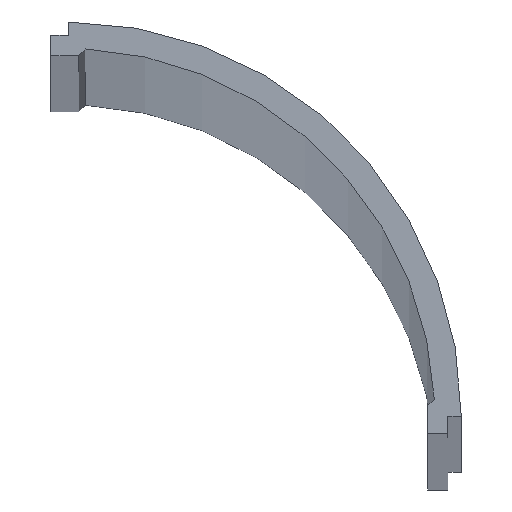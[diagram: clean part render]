
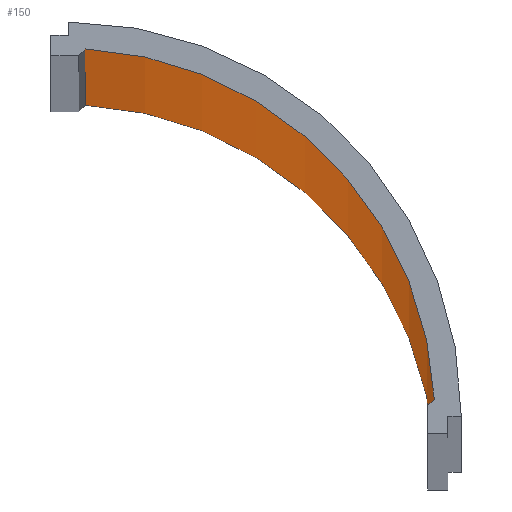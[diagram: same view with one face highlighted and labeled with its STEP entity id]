
A CAD part, top view. The second image highlights one B-rep face of the part: STEP entity #150.
In plain terms, the highlighted cylindrical face has radius 13.731 mm (diameter 27.463 mm), a partial arc.
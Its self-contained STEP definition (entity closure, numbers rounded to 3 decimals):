
#26 = CARTESIAN_POINT ( 'NONE',  ( 15., 1.973, 600. ) ) ;
#42 = AXIS2_PLACEMENT_3D ( 'NONE', #278, #136, #97 ) ;
#53 = VERTEX_POINT ( 'NONE', #26 ) ;
#56 = LINE ( 'NONE', #368, #103 ) ;
#70 = DIRECTION ( 'NONE',  ( 1., 0., 0. ) ) ;
#75 = CARTESIAN_POINT ( 'NONE',  ( 2.015, 15., 600. ) ) ;
#90 = VERTEX_POINT ( 'NONE', #313 ) ;
#91 = DIRECTION ( 'NONE',  ( 0., 0., -1. ) ) ;
#97 = DIRECTION ( 'NONE',  ( -1., 0., 0. ) ) ;
#103 = VECTOR ( 'NONE', #91, 1000. ) ;
#125 = CARTESIAN_POINT ( 'NONE',  ( 2.015, 15., 600. ) ) ;
#136 = DIRECTION ( 'NONE',  ( 0., 0., -1. ) ) ;
#145 = ORIENTED_EDGE ( 'NONE', *, *, #241, .T. ) ;
#150 = ADVANCED_FACE ( 'NONE', ( #315 ), #169, .F. ) ;
#152 = CARTESIAN_POINT ( 'NONE',  ( 1.286, 1.288, -600. ) ) ;
#166 = EDGE_CURVE ( 'NONE', #437, #53, #378, .T. ) ;
#169 = CYLINDRICAL_SURFACE ( 'NONE', #42, 13.731 ) ;
#204 = AXIS2_PLACEMENT_3D ( 'NONE', #344, #381, #70 ) ;
#207 = VERTEX_POINT ( 'NONE', #238 ) ;
#222 = CIRCLE ( 'NONE', #419, 13.731 ) ;
#238 = CARTESIAN_POINT ( 'NONE',  ( 15., 1.973, -600. ) ) ;
#241 = EDGE_CURVE ( 'NONE', #437, #90, #330, .T. ) ;
#250 = ORIENTED_EDGE ( 'NONE', *, *, #362, .T. ) ;
#259 = DIRECTION ( 'NONE',  ( 0., 0., -1. ) ) ;
#278 = CARTESIAN_POINT ( 'NONE',  ( 1.286, 1.288, 600. ) ) ;
#313 = CARTESIAN_POINT ( 'NONE',  ( 2.015, 15., -600. ) ) ;
#315 = FACE_OUTER_BOUND ( 'NONE', #397, .T. ) ;
#318 = VECTOR ( 'NONE', #356, 1000. ) ;
#330 = LINE ( 'NONE', #75, #318 ) ;
#344 = CARTESIAN_POINT ( 'NONE',  ( 1.286, 1.288, 600. ) ) ;
#345 = ORIENTED_EDGE ( 'NONE', *, *, #166, .F. ) ;
#356 = DIRECTION ( 'NONE',  ( 0., 0., -1. ) ) ;
#362 = EDGE_CURVE ( 'NONE', #90, #207, #222, .T. ) ;
#368 = CARTESIAN_POINT ( 'NONE',  ( 15., 1.973, 600. ) ) ;
#378 = CIRCLE ( 'NONE', #204, 13.731 ) ;
#381 = DIRECTION ( 'NONE',  ( 0., 0., -1. ) ) ;
#396 = DIRECTION ( 'NONE',  ( 1., 0., 0. ) ) ;
#397 = EDGE_LOOP ( 'NONE', ( #250, #411, #345, #145 ) ) ;
#411 = ORIENTED_EDGE ( 'NONE', *, *, #423, .F. ) ;
#419 = AXIS2_PLACEMENT_3D ( 'NONE', #152, #259, #396 ) ;
#423 = EDGE_CURVE ( 'NONE', #53, #207, #56, .T. ) ;
#437 = VERTEX_POINT ( 'NONE', #125 ) ;
